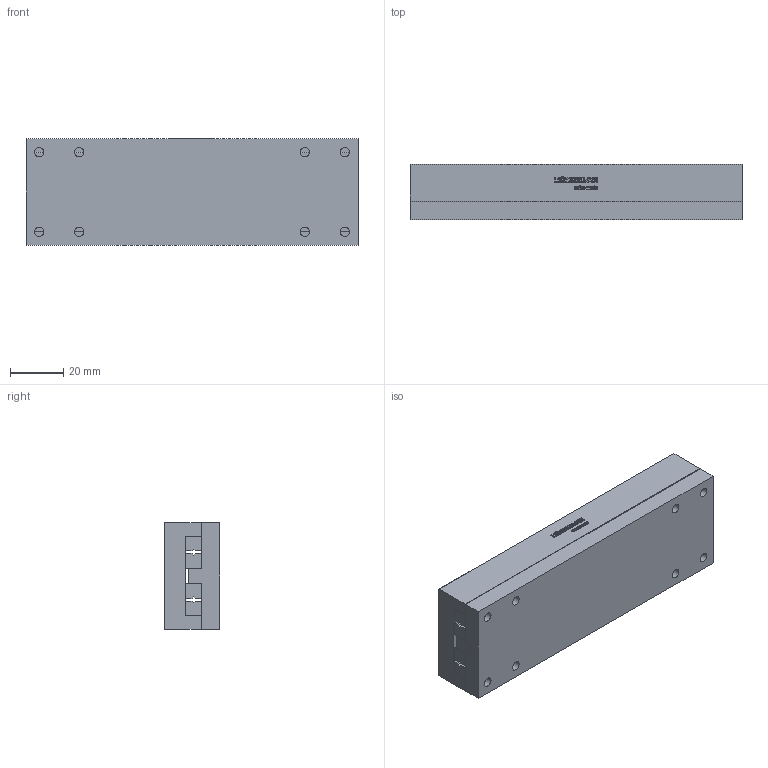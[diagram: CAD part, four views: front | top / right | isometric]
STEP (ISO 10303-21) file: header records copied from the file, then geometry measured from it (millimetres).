
FILE_DESCRIPTION(/* description */ ('STEP AP214'),/* implementation_level */ '2;1');
FILE_NAME(/* name */ 'NK 2-125-B(0)',/* time_stamp */ '2025-04-22T17:48:11+02:00',/* author */ ('License CC BY-ND 4.0'),/* organization */ ('CADENAS'),/* preprocessor_version */ 'ST-DEVELOPER v19.3',/* originating_system */ 'PARTsolutions',/* authorisation */ ' ');
FILE_SCHEMA (('AUTOMOTIVE_DESIGN {1 0 10303 214 3 1 1}'));
Length unit declared in the file: millimetre
Products named in the file (3): NK 2-125-B(0); NK 2-125-B_1; NK 2-125-B_2
Assembly tree (2 placements, depth 2):
  NK 2-125-B(0)
    NK 2-125-B_1
    NK 2-125-B_2
Bounding box: 125 x 21 x 40 mm (x, y, z)
Volume: 100175.6 mm3; surface area: 37248.5 mm2
Topology: 2 solids, 2 shells, 615 faces, 1692 edges, 1116 vertices
Faces by surface type: cylinder 322, plane 265, cone 28
Full cylindrical faces by diameter (mm): 2.459 x14, 3.5 x8, 6 x8
Entity records: 19623 total; most frequent: DIRECTION 3542, CARTESIAN_POINT 3368, ORIENTED_EDGE 3268, EDGE_CURVE 1634, AXIS2_PLACEMENT_3D 1290, VERTEX_POINT 1116, LINE 962, VECTOR 962
